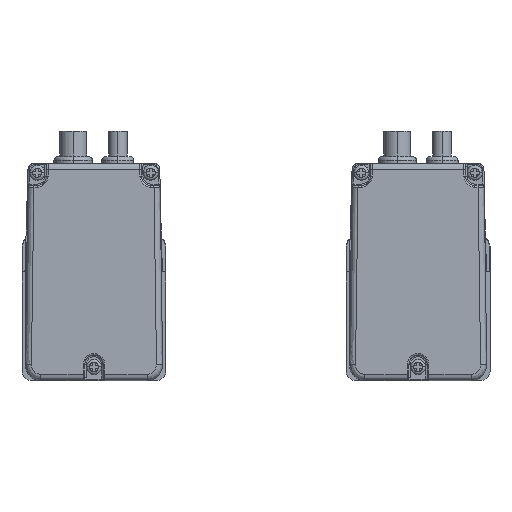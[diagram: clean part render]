
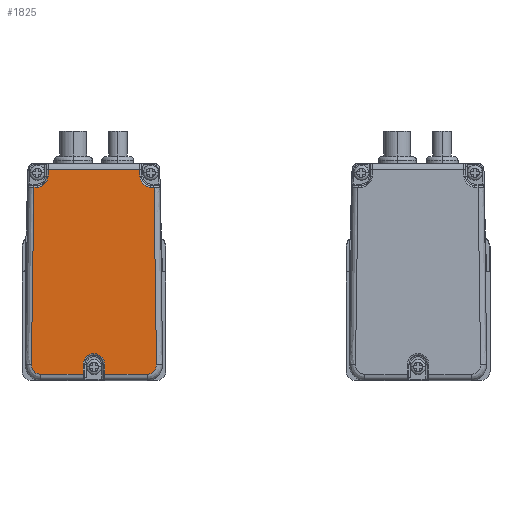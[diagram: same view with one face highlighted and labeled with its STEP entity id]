
A CAD part, left-side view. The second image highlights one B-rep face of the part: STEP entity #1825.
In plain terms, the highlighted planar face has unit normal (-1, 0, 0).
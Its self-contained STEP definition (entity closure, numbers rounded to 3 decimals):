
#1825=ADVANCED_FACE('',(#4228),#4229,.F.);
#4228=FACE_OUTER_BOUND('',#22033,.T.);
#4229=PLANE('',#22034);
#22033=EDGE_LOOP('',(#60569,#60570,#60571,#60572,#60573,#60574,#60575,#60576,#60577,#60578,#60579,#60580,#60581,#60582,#60583,#60584,#60585));
#22034=AXIS2_PLACEMENT_3D('',#60586,#60587,#60588);
#60569=ORIENTED_EDGE('',*,*,#67964,.F.);
#60570=ORIENTED_EDGE('',*,*,#68729,.F.);
#60571=ORIENTED_EDGE('',*,*,#68730,.F.);
#60572=ORIENTED_EDGE('',*,*,#68731,.F.);
#60573=ORIENTED_EDGE('',*,*,#68732,.F.);
#60574=ORIENTED_EDGE('',*,*,#68733,.F.);
#60575=ORIENTED_EDGE('',*,*,#68734,.F.);
#60576=ORIENTED_EDGE('',*,*,#68735,.F.);
#60577=ORIENTED_EDGE('',*,*,#68736,.F.);
#60578=ORIENTED_EDGE('',*,*,#68737,.F.);
#60579=ORIENTED_EDGE('',*,*,#68738,.F.);
#60580=ORIENTED_EDGE('',*,*,#68739,.F.);
#60581=ORIENTED_EDGE('',*,*,#67979,.F.);
#60582=ORIENTED_EDGE('',*,*,#68740,.F.);
#60583=ORIENTED_EDGE('',*,*,#68741,.F.);
#60584=ORIENTED_EDGE('',*,*,#68742,.F.);
#60585=ORIENTED_EDGE('',*,*,#68743,.F.);
#60586=CARTESIAN_POINT('',(60.75,84.221,103.38));
#60587=DIRECTION('',(1.0,0.0,0.0));
#60588=DIRECTION('',(0.0,0.0,-1.0));
#67964=EDGE_CURVE('',#71864,#71866,#71867,.T.);
#67979=EDGE_CURVE('',#71891,#71893,#71894,.T.);
#68729=EDGE_CURVE('',#73160,#71864,#73161,.T.);
#68730=EDGE_CURVE('',#73162,#73160,#73163,.T.);
#68731=EDGE_CURVE('',#73164,#73162,#73165,.T.);
#68732=EDGE_CURVE('',#73166,#73164,#73167,.T.);
#68733=EDGE_CURVE('',#73168,#73166,#73169,.T.);
#68734=EDGE_CURVE('',#73170,#73168,#73171,.T.);
#68735=EDGE_CURVE('',#73172,#73170,#73173,.T.);
#68736=EDGE_CURVE('',#73174,#73172,#73175,.T.);
#68737=EDGE_CURVE('',#73176,#73174,#73177,.T.);
#68738=EDGE_CURVE('',#73178,#73176,#73179,.T.);
#68739=EDGE_CURVE('',#71893,#73178,#73180,.T.);
#68740=EDGE_CURVE('',#73181,#71891,#73182,.T.);
#68741=EDGE_CURVE('',#73183,#73181,#73184,.T.);
#68742=EDGE_CURVE('',#73185,#73183,#73186,.T.);
#68743=EDGE_CURVE('',#71866,#73185,#73187,.T.);
#71864=VERTEX_POINT('',#79581);
#71866=VERTEX_POINT('',#79583);
#71867=LINE('',#79584,#79585);
#71891=VERTEX_POINT('',#80622);
#71893=VERTEX_POINT('',#80624);
#71894=ELLIPSE('',#80625,3.,2.873);
#73160=VERTEX_POINT('',#102499);
#73161=LINE('',#102500,#102501);
#73162=VERTEX_POINT('',#102502);
#73163=ELLIPSE('',#102503,3.,2.873);
#73164=VERTEX_POINT('',#102504);
#73165=LINE('',#102505,#102506);
#73166=VERTEX_POINT('',#102507);
#73167=LINE('',#102508,#102509);
#73168=VERTEX_POINT('',#102510);
#73169=ELLIPSE('',#102511,3.5,3.352);
#73170=VERTEX_POINT('',#102512);
#73171=LINE('',#102513,#102514);
#73172=VERTEX_POINT('',#102515);
#73173=LINE('',#102516,#102517);
#73174=VERTEX_POINT('',#102518);
#73175=LINE('',#102519,#102520);
#73176=VERTEX_POINT('',#102521);
#73177=ELLIPSE('',#102522,3.5,3.352);
#73178=VERTEX_POINT('',#102523);
#73179=LINE('',#102524,#102525);
#73180=LINE('',#102526,#102527);
#73181=VERTEX_POINT('',#102528);
#73182=LINE('',#102529,#102530);
#73183=VERTEX_POINT('',#102531);
#73184=LINE('',#102532,#102533);
#73185=VERTEX_POINT('',#102534);
#73186=ELLIPSE('',#102535,3.5,3.352);
#73187=ELLIPSE('',#102536,3.5,3.352);
#79581=CARTESIAN_POINT('',(60.75,100.446,39.38));
#79583=CARTESIAN_POINT('',(60.75,100.446,42.38));
#79584=CARTESIAN_POINT('',(60.75,100.446,56.38));
#79585=VECTOR('',#151676,1.);
#80622=CARTESIAN_POINT('',(60.75,120.485,39.38));
#80624=CARTESIAN_POINT('',(60.75,123.357,42.425));
#80625=AXIS2_PLACEMENT_3D('',#151698,#151699,#151700);
#102499=CARTESIAN_POINT('',(60.75,87.111,39.38));
#102500=CARTESIAN_POINT('',(60.75,103.798,39.38));
#102501=VECTOR('',#152622,0.958);
#102502=CARTESIAN_POINT('',(60.75,84.239,42.425));
#102503=AXIS2_PLACEMENT_3D('',#152623,#152624,#152625);
#102504=CARTESIAN_POINT('',(60.75,85.02,97.88));
#102505=CARTESIAN_POINT('',(60.75,84.648,71.513));
#102506=VECTOR('',#152626,1.);
#102507=CARTESIAN_POINT('',(60.75,86.083,97.88));
#102508=CARTESIAN_POINT('',(60.75,94.701,97.88));
#102509=VECTOR('',#152627,0.958);
#102510=CARTESIAN_POINT('',(60.75,89.434,101.38));
#102511=AXIS2_PLACEMENT_3D('',#152628,#152629,#152630);
#102512=CARTESIAN_POINT('',(60.75,89.434,103.38));
#102513=CARTESIAN_POINT('',(60.75,89.434,86.63));
#102514=VECTOR('',#152631,1.0);
#102515=CARTESIAN_POINT('',(60.75,118.162,103.38));
#102516=CARTESIAN_POINT('',(60.75,103.798,103.38));
#102517=VECTOR('',#152632,0.958);
#102518=CARTESIAN_POINT('',(60.75,118.162,101.38));
#102519=CARTESIAN_POINT('',(60.75,118.162,86.63));
#102520=VECTOR('',#152633,1.);
#102521=CARTESIAN_POINT('',(60.75,121.513,97.88));
#102522=AXIS2_PLACEMENT_3D('',#152634,#152635,#152636);
#102523=CARTESIAN_POINT('',(60.75,122.576,97.88));
#102524=CARTESIAN_POINT('',(60.75,112.895,97.88));
#102525=VECTOR('',#152637,0.958);
#102526=CARTESIAN_POINT('',(60.75,122.947,71.513));
#102527=VECTOR('',#152638,1.);
#102528=CARTESIAN_POINT('',(60.75,107.149,39.38));
#102529=CARTESIAN_POINT('',(60.75,103.798,39.38));
#102530=VECTOR('',#152639,0.958);
#102531=CARTESIAN_POINT('',(60.75,107.149,42.38));
#102532=CARTESIAN_POINT('',(60.75,107.149,56.38));
#102533=VECTOR('',#152640,1.);
#102534=CARTESIAN_POINT('',(60.75,103.798,45.88));
#102535=AXIS2_PLACEMENT_3D('',#152641,#152642,#152643);
#102536=AXIS2_PLACEMENT_3D('',#152644,#152645,#152646);
#151676=DIRECTION('',(0.0,0.0,1.0));
#151698=CARTESIAN_POINT('',(60.75,120.485,42.38));
#151699=DIRECTION('',(1.0,0.0,0.0));
#151700=DIRECTION('',(0.0,0.,-1.0));
#152622=DIRECTION('',(0.0,1.0,0.0));
#152623=CARTESIAN_POINT('',(60.75,87.111,42.38));
#152624=DIRECTION('',(1.0,0.0,0.0));
#152625=DIRECTION('',(0.0,0.,-1.0));
#152626=DIRECTION('',(0.0,-0.014,-1.));
#152627=DIRECTION('',(0.0,-1.0,0.0));
#152628=CARTESIAN_POINT('',(60.75,86.083,101.38));
#152629=DIRECTION('',(-1.0,0.0,0.0));
#152630=DIRECTION('',(0.0,0.,1.0));
#152631=DIRECTION('',(0.0,0.0,-1.0));
#152632=DIRECTION('',(0.0,-1.0,0.0));
#152633=DIRECTION('',(0.0,0.0,1.0));
#152634=CARTESIAN_POINT('',(60.75,121.513,101.38));
#152635=DIRECTION('',(-1.0,0.0,0.0));
#152636=DIRECTION('',(0.0,0.,1.0));
#152637=DIRECTION('',(0.0,-1.0,0.0));
#152638=DIRECTION('',(0.0,-0.014,1.));
#152639=DIRECTION('',(0.0,1.0,0.0));
#152640=DIRECTION('',(0.0,0.0,-1.0));
#152641=CARTESIAN_POINT('',(60.75,103.798,42.38));
#152642=DIRECTION('',(-1.0,0.0,0.0));
#152643=DIRECTION('',(0.0,0.,1.0));
#152644=CARTESIAN_POINT('',(60.75,103.798,42.38));
#152645=DIRECTION('',(-1.0,0.0,0.0));
#152646=DIRECTION('',(0.0,0.,1.0));
